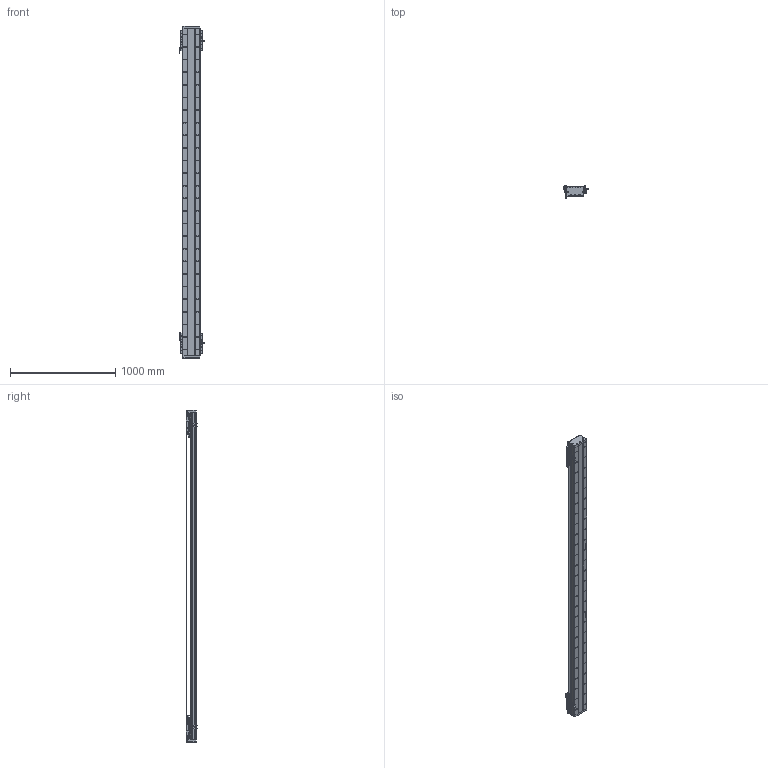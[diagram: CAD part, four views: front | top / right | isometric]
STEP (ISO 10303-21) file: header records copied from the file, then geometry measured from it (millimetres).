
FILE_DESCRIPTION (( 'STEP AP203' ), '1' );
FILE_NAME ('DA-C165-2-C2-T2660-C010-0.2 直线电机.STEP', '2023-05-11T08:30:41', ( '微软用户' ), ( '微软中国' ), 'SwSTEP 2.0', 'SolidWorks 2019', '' );
FILE_SCHEMA (( 'CONFIG_CONTROL_DESIGN' ));
Length unit declared in the file: millimetre
Products named in the file (22): 复件 CU165钢带组件^DA-C165-C2-T-C010-0.2-N 直线电机; 葩璃 PM-Y45^DA-C165-C2-T-C010-0.2-N 眻盄萇儂; 复件 DA165-GDYK-00 钢带压块^复件 CU165钢带组件_DA-C165-C2-T-C010-0.2-N 直线电机; 复件 DA165-GDLK-00 钢带拉块^复件 CU165钢带组件_DA-C165-C2-T-C010-0.2-N 直线电机; 复件 XD-U-02L 磁栅尺^DA-C165-C2-T-C010-0.2-N 直线电机_T; 复件 DMA-010-0.2 读数头^DA-C165-C2-T-C010-0.2-N 直线电机; 复件 DKW-HXJ-JY-00 缓冲橡胶^DA-C165-C2-T-C010-0.2-N 直线电机; 葩璃 PM-T45^DA-C165-C2-T-C010-0.2-N 眻盄萇儂; IU-CU165-L 菁釱絳寢; 复件 六角薄螺母 M3^DA-C165-C2-T-C010-0.2-N 直线电机_GB_FASTENER_NUT_STNAB M3-C; 葩璃 DA95-GT-T-00^IU-CU165-L 菁釱絳寢_T; 复件 DA165-GYP-00 光电感应片^DA-C165-C2-T-C010-0.2-N 直线电机; 复件 DA165-GD-DG-H-00 端盖^复件 CU165钢带组件_DA-C165-C2-T-C010-0.2-N 直线电机; 复件 DA126-GYP-ZJ-00 中间光电感应片^DA-C165-C2-T-C010-0.2-N 直线电机; 复件 66338-1000-006-00 光电感应块^DA-C165-C2-T-C010-0.2-N 直线电机; 葩璃 CKM01-W075-TRL^DA-C165-C2-T-C010-0.2-N 眻盄萇儂; 珨极趙賑雄怢啣wf-C2; DA-C165-2-C2-T2660-C010-0.2 眻盄萇儂; 复件 DA95-HXJ-00 缓冲橡胶^DA-C165-C2-T-C010-0.2-N 直线电机; 复件 DA165-GD-1860-002-00 钢带盖板^复件 CU165钢带组件_DA-C165-C2-T-C010-0.2-N 直线电机; 复件 CKM02-W075-C1C2-TP-3.0 一体电机-C2^DA-C165-C2-T-C010-0.2-N 直线电机; IU-CU165-L-00 菁釱_L3120
Assembly tree (43 placements, depth 3):
  DA-C165-2-C2-T2660-C010-0.2 眻盄萇儂
    IU-CU165-L 菁釱絳寢
      IU-CU165-L-00 菁釱_L3120
      葩璃 DA95-GT-T-00^IU-CU165-L 菁釱絳寢_T  x4
    复件 XD-U-02L 磁栅尺^DA-C165-C2-T-C010-0.2-N 直线电机_T
    葩璃 PM-T45^DA-C165-C2-T-C010-0.2-N 眻盄萇儂  x4
    葩璃 CKM01-W075-TRL^DA-C165-C2-T-C010-0.2-N 眻盄萇儂
    复件 CU165钢带组件^DA-C165-C2-T-C010-0.2-N 直线电机
      复件 DA165-GD-DG-H-00 端盖^复件 CU165钢带组件_DA-C165-C2-T-C010-0.2-N 直线电机  x2
      复件 DA165-GDYK-00 钢带压块^复件 CU165钢带组件_DA-C165-C2-T-C010-0.2-N 直线电机  x2
      复件 DA165-GD-1860-002-00 钢带盖板^复件 CU165钢带组件_DA-C165-C2-T-C010-0.2-N 直线电机
      复件 DA165-GDLK-00 钢带拉块^复件 CU165钢带组件_DA-C165-C2-T-C010-0.2-N 直线电机  x2
    复件 DA95-HXJ-00 缓冲橡胶^DA-C165-C2-T-C010-0.2-N 直线电机  x4
    复件 CKM02-W075-C1C2-TP-3.0 一体电机-C2^DA-C165-C2-T-C010-0.2-N 直线电机  x2
    复件 DMA-010-0.2 读数头^DA-C165-C2-T-C010-0.2-N 直线电机  x2
    复件 DA165-GYP-00 光电感应片^DA-C165-C2-T-C010-0.2-N 直线电机  x2
    复件 66338-1000-006-00 光电感应块^DA-C165-C2-T-C010-0.2-N 直线电机
    葩璃 PM-Y45^DA-C165-C2-T-C010-0.2-N 眻盄萇儂
    复件 DA126-GYP-ZJ-00 中间光电感应片^DA-C165-C2-T-C010-0.2-N 直线电机
    复件 DKW-HXJ-JY-00 缓冲橡胶^DA-C165-C2-T-C010-0.2-N 直线电机  x2
    复件 六角薄螺母 M3^DA-C165-C2-T-C010-0.2-N 直线电机_GB_FASTENER_NUT_STNAB M3-C  x6
    珨极趙賑雄怢啣wf-C2  x2
Bounding box: 247.2 x 111.45 x 3160 mm (x, y, z)
Volume: 18750028.1 mm3; surface area: 5517595.6 mm2
Topology: 119 solids, 119 shells, 5915 faces, 16860 edges, 10680 vertices
Faces by surface type: cylinder 3300, plane 1823, cone 704, torus 80, sphere 8
Entity records: 149142 total; most frequent: CARTESIAN_POINT 40985, ORIENTED_EDGE 22664, DIRECTION 21554, EDGE_CURVE 11332, AXIS2_PLACEMENT_3D 8214, VERTEX_POINT 7417, EDGE_LOOP 5141, LINE 5126
